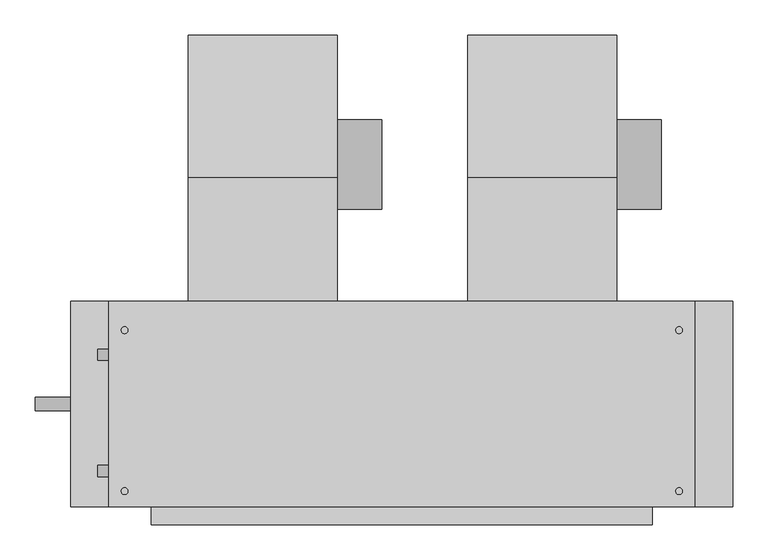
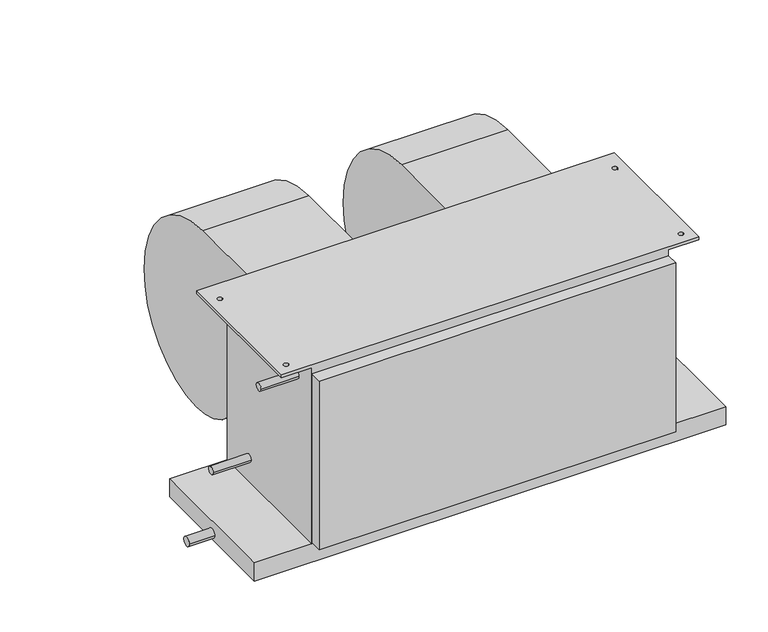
"""IFC4 building model written with IfcOpenShell, lengths in millimetres: proxy geometry, Concealed_High_Capacity_Horizontal_Fan_Coil_Unit_-_42DAA_-_CARRIER_-_2-Pipe_Cool-EHeat_LH_2022 : Size 12 - 277v/60Hz/1Ph - 6 Row 9.0kW."""

import ifcopenshell
import ifcopenshell.guid

model = None  # the IFC model being written
_history = None  # IfcOwnerHistory: only IFC2X3 demands one
_inside = {}  # id of a spatial element -> (the spatial element, [elements in it])
_under = {}  # id of a project, library or spatial element -> (it, [spatial elements below it])
_declared = {}  # id of a project -> (the project, [libraries it declares])
_typed = {}  # id of a type object -> (the type object, [elements of that type])
_made_of = {}  # id of a material, layer set ... -> (it, [elements and type objects made of it])


def new_model(schema):
    """Start an empty IFC model of exactly this schema.

    Asked for "IFC4X3", IfcOpenShell would pick the latest addendum, in which some entities
    have other attributes; the version numbers below select the first issue.
    IFC2X3 requires an IfcOwnerHistory on every rooted entity: one is made here for all.
    """
    global model, _history
    if schema == "IFC4X3":
        model = ifcopenshell.file(schema_version=(4, 3, 0, 0))
    else:
        model = ifcopenshell.file(schema=schema)
    _inside.clear()
    _under.clear()
    _declared.clear()
    _typed.clear()
    _made_of.clear()
    _history = None
    if model.schema == "IFC2X3":
        org = make("IfcOrganization", Name="unknown")
        user = make(
            "IfcPersonAndOrganization",
            ThePerson=make("IfcPerson", FamilyName="unknown"),
            TheOrganization=org,
        )
        app = make(
            "IfcApplication",
            ApplicationDeveloper=org,
            Version="unknown",
            ApplicationFullName="unknown",
            ApplicationIdentifier="unknown",
        )
        _history = make(
            "IfcOwnerHistory",
            OwningUser=user,
            OwningApplication=app,
            ChangeAction="ADDED",
            CreationDate=0,
        )
    return model


def make(cls, **values):
    """One entity of the class cls with the attributes given. An attribute that is None is left unset."""
    return model.create_entity(
        cls, **{name: value for name, value in values.items() if value is not None}
    )


def rooted(cls, **values):
    """An entity with a GlobalId (a new one), such as an element, a storey or a relation."""
    return make(cls, GlobalId=ifcopenshell.guid.new(), OwnerHistory=_history, **values)


def si_unit(unit_type, name, prefix=None):
    """IfcSIUnit, for example si_unit("LENGTHUNIT", "METRE", prefix="MILLI")."""
    return make("IfcSIUnit", UnitType=unit_type, Prefix=prefix, Name=name)


def assignment(units):
    """IfcUnitAssignment: the units of a project."""
    return None if units is None else make("IfcUnitAssignment", Units=units)


def point(xyz):
    """IfcCartesianPoint."""
    return None if xyz is None else make("IfcCartesianPoint", Coordinates=xyz)


def direction(xyz):
    """IfcDirection."""
    return None if xyz is None else make("IfcDirection", DirectionRatios=xyz)


def frame(location, z_axis=None, x_axis=None):
    """IfcAxis2Placement3D, a coordinate frame: its origin and axes. An axis left out is left unset."""
    return make(
        "IfcAxis2Placement3D",
        Location=point(location),
        Axis=direction(z_axis),
        RefDirection=direction(x_axis),
    )


def frame_2d(location, x_axis=None):
    """IfcAxis2Placement2D, a coordinate frame in the plane: its origin and x axis."""
    return make(
        "IfcAxis2Placement2D", Location=point(location), RefDirection=direction(x_axis)
    )


def origin():
    """The frame at (0, 0, 0) with its axes left unset."""
    return frame((0.0, 0.0, 0.0))


def place(relative_to, where):
    """IfcLocalPlacement: puts the frame where relative to a parent placement (None: the world)."""
    return make(
        "IfcLocalPlacement", PlacementRelTo=relative_to, RelativePlacement=where
    )


def context(
    kind, dimensions, precision=None, world=None, true_north=None, identifier=None
):
    """IfcGeometricRepresentationContext, for example the 3D "Model" context."""
    return make(
        "IfcGeometricRepresentationContext",
        ContextIdentifier=identifier,
        ContextType=kind,
        CoordinateSpaceDimension=dimensions,
        Precision=precision,
        WorldCoordinateSystem=world,
        TrueNorth=true_north,
    )


def project(units=None, contexts=None):
    """IfcProject with its units and contexts."""
    return rooted(
        "IfcProject",
        Name="project",
        RepresentationContexts=contexts,
        UnitsInContext=assignment(units),
    )


def spatial(cls, under=None, at=None, **own):
    """A site, building, storey or space (cls), placed at a placement, below another one or the project."""
    s = rooted(cls, ObjectPlacement=at, **own)
    if under is not None:
        _under.setdefault(under.id(), (under, []))[1].append(s)
    return s


def polyline(points):
    """IfcPolyline through the points."""
    return make("IfcPolyline", Points=[point(p) for p in points])


def circle_curve(where, radius):
    """IfcCircle in the frame where."""
    return make("IfcCircle", Position=where, Radius=radius)


def trimmed(basis, trim1, trim2, sense, master):
    """IfcTrimmedCurve: the piece of a basis curve between two trims."""
    return make(
        "IfcTrimmedCurve",
        BasisCurve=basis,
        Trim1=trim1,
        Trim2=trim2,
        SenseAgreement=sense,
        MasterRepresentation=master,
    )


def segment(curve, same_sense, transition):
    """IfcCompositeCurveSegment."""
    return make(
        "IfcCompositeCurveSegment",
        Transition=transition,
        SameSense=same_sense,
        ParentCurve=curve,
    )


def composite_curve(segments, self_intersect=None):
    """IfcCompositeCurve: segments joined end to end."""
    return make("IfcCompositeCurve", Segments=segments, SelfIntersect=self_intersect)


def outline(outer, holes=None, kind="AREA"):
    """IfcArbitraryClosedProfileDef: a profile drawn as a closed curve; with holes, ...WithVoids."""
    if holes is None:
        return make("IfcArbitraryClosedProfileDef", ProfileType=kind, OuterCurve=outer)
    return make(
        "IfcArbitraryProfileDefWithVoids",
        ProfileType=kind,
        OuterCurve=outer,
        InnerCurves=holes,
    )


def extrude(swept, where, along, depth):
    """IfcExtrudedAreaSolid: the profile swept, set in the frame where, extruded along a direction by depth."""
    return make(
        "IfcExtrudedAreaSolid",
        SweptArea=swept,
        Position=where,
        ExtrudedDirection=direction(along),
        Depth=depth,
    )


def shape(context_of_items, identifier, shape_type, items):
    """IfcShapeRepresentation: the items that make up one representation, for example the "Body"."""
    return make(
        "IfcShapeRepresentation",
        ContextOfItems=context_of_items,
        RepresentationIdentifier=identifier,
        RepresentationType=shape_type,
        Items=items,
    )


def source(mapping_origin, context_of_items, identifier, shape_type, items):
    """IfcRepresentationMap: a shape defined once, which mapped items show again and again."""
    return make(
        "IfcRepresentationMap",
        MappingOrigin=mapping_origin,
        MappedRepresentation=shape(context_of_items, identifier, shape_type, items),
    )


def transform(
    local_origin,
    x_axis=None,
    y_axis=None,
    z_axis=None,
    scale=None,
    scale2=None,
    scale3=None,
    uniform=True,
):
    """IfcCartesianTransformationOperator3D, or its non-uniform kind. x_axis, y_axis, z_axis: its Axis1, 2, 3."""
    if uniform:
        return make(
            "IfcCartesianTransformationOperator3D",
            Axis1=direction(x_axis),
            Axis2=direction(y_axis),
            LocalOrigin=point(local_origin),
            Scale=scale,
            Axis3=direction(z_axis),
        )
    return make(
        "IfcCartesianTransformationOperator3DnonUniform",
        Axis1=direction(x_axis),
        Axis2=direction(y_axis),
        LocalOrigin=point(local_origin),
        Scale=scale,
        Axis3=direction(z_axis),
        Scale2=scale2,
        Scale3=scale3,
    )


def mapped(mapping_source, mapping_target):
    """IfcMappedItem: shows the shape of a source again, moved by a transform."""
    return make(
        "IfcMappedItem", MappingSource=mapping_source, MappingTarget=mapping_target
    )


def made_of(thing, what):
    """Note that an element or type object is made of a material, layer set ...; save() writes the relation."""
    if what is not None:
        _made_of.setdefault(what.id(), (what, []))[1].append(thing)
    return thing


def element(
    cls,
    number,
    at=None,
    inside=None,
    cuts=None,
    type_object=None,
    material=None,
    context=None,
    identifier="Body",
    shape_type=None,
    held_by="IfcProductDefinitionShape",
    body=None,
    shapes=None,
    **own,
):
    """One element of the class cls, such as IfcWall. Its Tag is "e" and its number.

    at: its placement. inside: the storey or other place that contains it. cuts: it is an
    opening in that element (IfcRelVoidsElement). A single representation is given by context,
    identifier, shape_type and body (its items); several are given by shapes. held_by: the class
    of the entity that holds the representations. save() writes the other relations.
    """
    e = rooted(cls, Tag="e%d" % number, ObjectPlacement=at, **own)
    if body is not None:
        shapes = [shape(context, identifier, shape_type, body)]
    if shapes is not None:
        e.Representation = make(held_by, Representations=shapes)
    if inside is not None:
        _inside.setdefault(inside.id(), (inside, []))[1].append(e)
    if cuts is not None:
        rooted(
            "IfcRelVoidsElement", RelatingBuildingElement=cuts, RelatedOpeningElement=e
        )
    if type_object is not None:
        _typed.setdefault(type_object.id(), (type_object, []))[1].append(e)
    return made_of(e, material)


def aggregate(whole, parts):
    """IfcRelAggregates: a whole, such as a stair, and the parts it consists of."""
    return rooted("IfcRelAggregates", RelatingObject=whole, RelatedObjects=parts)


def save(model, path):
    """Write the relations noted so far, then the file.

    IfcRelAggregates (storeys below a building ...), IfcRelContainedInSpatialStructure (elements
    in a storey), IfcRelDefinesByType, IfcRelAssociatesMaterial and IfcRelDeclares: one each for
    every whole, place, type object, material and project.
    """
    for whole, parts in _under.values():
        aggregate(whole, parts)
    for where, things in _inside.values():
        rooted(
            "IfcRelContainedInSpatialStructure",
            RelatedElements=things,
            RelatingStructure=where,
        )
    for kind, things in _typed.values():
        rooted("IfcRelDefinesByType", RelatedObjects=things, RelatingType=kind)
    for what, things in _made_of.values():
        rooted("IfcRelAssociatesMaterial", RelatedObjects=things, RelatingMaterial=what)
    for by, libraries in _declared.values():
        rooted("IfcRelDeclares", RelatingContext=by, RelatedDefinitions=libraries)
    model.write(path)


def plane_surface(at):
    """IfcPlane: the flat surface through the origin of the frame at, square to its z axis."""
    return make("IfcPlane", Position=at)


def cylinder_surface(at, radius):
    """IfcCylindricalSurface: all points at the distance radius from the z axis of the frame at."""
    return make("IfcCylindricalSurface", Position=at, Radius=radius)


def revolved_surface(curve, axis_point, axis_direction):
    """IfcSurfaceOfRevolution: the curve turned about the line through axis_point along axis_direction."""
    return make(
        "IfcSurfaceOfRevolution",
        SweptCurve=make("IfcArbitraryOpenProfileDef", ProfileType="CURVE", Curve=curve),
        AxisPosition=make("IfcAxis1Placement", Location=point(axis_point), Axis=direction(axis_direction)),
    )


def advanced_brep(points, edges, surfaces, faces):
    """IfcAdvancedBrep: a solid bounded by faces that lie on surfaces and meet in shared edges.

    An edge is (start, end): straight between two places in points (the first is 0);
    or (start, end, curve); or (start, end, curve, False) where it runs against its curve.
    A face is (place in surfaces, loops), or (place, loops, False) where it looks against
    its surface's normal. A loop lists edges by number (the first is 1), with a minus sign
    where the edge is run from its end to its start. The first loop is the outer one.
    """
    corners = [point(p) for p in points]
    vertices = [make("IfcVertexPoint", VertexGeometry=c) for c in corners]
    made = []
    for start, end, *more in edges:
        made.append(
            make(
                "IfcEdgeCurve",
                EdgeStart=vertices[start],
                EdgeEnd=vertices[end],
                EdgeGeometry=more[0] if more else make("IfcPolyline", Points=[corners[start], corners[end]]),
                SameSense=more[1] if len(more) > 1 else True,
            )
        )
    hull = []
    for where, loops, *sense in faces:
        bounds = []
        for j, loop in enumerate(loops):
            ring = [make("IfcOrientedEdge", EdgeElement=made[abs(k) - 1], Orientation=k > 0) for k in loop]
            bounds.append(
                make(
                    "IfcFaceOuterBound" if j == 0 else "IfcFaceBound",
                    Bound=make("IfcEdgeLoop", EdgeList=ring),
                    Orientation=True,
                )
            )
        hull.append(make("IfcAdvancedFace", Bounds=bounds, FaceSurface=surfaces[where], SameSense=sense[0] if sense else True))
    return make("IfcAdvancedBrep", Outer=make("IfcClosedShell", CfsFaces=hull))


def mechanical_equipment_65178799(model_context):
    return source(origin(), model_context, "Body", "SolidModel", [
        extrude(outline(composite_curve([segment(trimmed(circle_curve(frame_2d((102.0007598, -206.8897468)), 63.5), [point((165.5007598, -206.8897468))], [point((38.5007598, -206.8897468))], False, "CARTESIAN"), True, "CONTINUOUS"), segment(trimmed(circle_curve(frame_2d((102.0007598, -206.8897468)), 63.5), [point((38.5007598, -206.8897468))], [point((165.5007598, -206.8897468))], False, "CARTESIAN"), True, "CONTINUOUS")], self_intersect=False)), frame((60.325, 0.0, 0.0), z_axis=(1.0, 0.0, 0.0), x_axis=(0.0, 1.0, 0.0)), (0.0, 0.0, 1.0), 63.5),
        advanced_brep(
        [(-150.749, 285.5155957, -222.029602), (-150.749, 104.6226, -403.64664), (-150.749, -50.9016, -277.10638), (-150.749, -92.075, -277.10638), (-150.749, -92.075, -19.05), (-150.749, 83.0080093, -19.05), (60.325, 285.5155957, -222.029602), (60.325, 83.0080093, -19.05), (60.325, -92.075, -19.05), (60.325, -92.075, -277.10638), (60.325, -50.9016, -277.10638), (60.325, 104.622599, -403.6457839)],
        [
            (0, 1, circle_curve(frame((-150.749, 104.44226, -222.57258), z_axis=(-1.0, 0.0, 0.0), x_axis=(0.0, -1.0, 0.0)), 181.0741498)),
            (1, 2, circle_curve(frame((-150.749, 104.44226, -245.02364), z_axis=(-1.0, 0.0, 0.0), x_axis=(0.0, -1.0, 0.0)), 158.6222464)),
            (2, 3),
            (3, 4),
            (4, 5),
            (5, 0, circle_curve(frame((-150.749, 81.9912, -222.57258), z_axis=(-1.0, 0.0, 0.0), x_axis=(0.0, -1.0, 0.0)), 203.52512)),
            (6, 7, circle_curve(frame((60.325, 81.9912, -222.57258), z_axis=(1.0, 0.0, 0.0), x_axis=(0.0, -1.0, 0.0)), 203.52512)),
            (7, 8),
            (8, 9),
            (9, 10),
            (10, 11, circle_curve(frame((60.325, 104.44226, -245.02364), z_axis=(1.0, 0.0, 0.0), x_axis=(0.0, -1.0, 0.0)), 158.6222464)),
            (11, 6, circle_curve(frame((60.325, 104.44226, -222.57258), z_axis=(1.0, 0.0, 0.0), x_axis=(0.0, -1.0, 0.0)), 181.0741498)),
            (0, 6),
            (11, 1),
            (10, 2),
            (9, 3),
            (8, 4),
            (7, 5),
        ],
        [
            plane_surface(frame((-150.749, -76.6318898, -222.57258), z_axis=(-1.0, 0.0, 0.0), x_axis=(0.0, 0.0, 1.0))),
            plane_surface(frame((60.325, -76.6318898, -222.57258), z_axis=(1.0, 0.0, 0.0), x_axis=(0.0, 0.0, -1.0))),
            cylinder_surface(frame((60.325, 104.44226, -222.57258), z_axis=(-1.0, 0.0, 0.0), x_axis=(0.0, -1.0, 0.0)), 181.0741498),
            cylinder_surface(frame((60.325, 104.44226, -245.02364), z_axis=(-1.0, 0.0, 0.0), x_axis=(0.0, -1.0, 0.0)), 158.6222464),
            plane_surface(frame((-150.749, -50.9016, -277.10638), z_axis=(0.0, 0.0, -1.0), x_axis=(1.0, 0.0, 0.0))),
            plane_surface(frame((-150.749, -92.075, -277.10638), z_axis=(0.0, -1.0, 0.0), x_axis=(1.0, 0.0, 0.0))),
            plane_surface(frame((-150.749, -92.075, -19.05), z_axis=(0.0, 0.0, 1.0), x_axis=(1.0, 0.0, 0.0))),
            cylinder_surface(frame((60.325, 81.9912, -222.57258), z_axis=(-1.0, 0.0, 0.0), x_axis=(0.0, -1.0, 0.0)), 203.52512),
        ],
        [
            (0, [[1, 2, 3, 4, 5, 6]]),
            (1, [[7, 8, 9, 10, 11, 12]]),
            (2, [[-1, 13, -12, 14]]),
            (3, [[-2, -14, -11, 15]]),
            (4, [[-3, -15, -10, 16]]),
            (5, [[-4, -16, -9, 17]]),
            (6, [[-5, -17, -8, 18]]),
            (7, [[-6, -18, -7, -13]]),
        ],
    ),
        extrude(outline(composite_curve([segment(trimmed(circle_curve(frame_2d((102.0007598, -206.8897468)), 63.5), [point((165.5007598, -206.8897468))], [point((38.5007598, -206.8897468))], False, "CARTESIAN"), True, "CONTINUOUS"), segment(trimmed(circle_curve(frame_2d((102.0007598, -206.8897468)), 63.5), [point((38.5007598, -206.8897468))], [point((165.5007598, -206.8897468))], False, "CARTESIAN"), True, "CONTINUOUS")], self_intersect=False)), frame((457.2, 0.0, 0.0), z_axis=(1.0, 0.0, 0.0), x_axis=(0.0, 1.0, 0.0)), (0.0, 0.0, 1.0), 63.5),
        advanced_brep(
        [(246.126, 285.5155957, -222.029602), (246.126, 104.6226, -403.64664), (246.126, -50.9016, -277.10638), (246.126, -92.075, -277.10638), (246.126, -92.075, -19.05), (246.126, 83.0080093, -19.05), (457.2, 285.5155957, -222.029602), (457.2, 83.0080093, -19.05), (457.2, -92.075, -19.05), (457.2, -92.075, -277.10638), (457.2, -50.9016, -277.10638), (457.2, 104.622599, -403.6457839)],
        [
            (0, 1, circle_curve(frame((246.126, 104.44226, -222.57258), z_axis=(-1.0, 0.0, 0.0), x_axis=(0.0, -1.0, 0.0)), 181.0741498)),
            (1, 2, circle_curve(frame((246.126, 104.44226, -245.02364), z_axis=(-1.0, 0.0, 0.0), x_axis=(0.0, -1.0, 0.0)), 158.6222464)),
            (2, 3),
            (3, 4),
            (4, 5),
            (5, 0, circle_curve(frame((246.126, 81.9912, -222.57258), z_axis=(-1.0, 0.0, 0.0), x_axis=(0.0, -1.0, 0.0)), 203.52512)),
            (6, 7, circle_curve(frame((457.2, 81.9912, -222.57258), z_axis=(1.0, 0.0, 0.0), x_axis=(0.0, -1.0, 0.0)), 203.52512)),
            (7, 8),
            (8, 9),
            (9, 10),
            (10, 11, circle_curve(frame((457.2, 104.44226, -245.02364), z_axis=(1.0, 0.0, 0.0), x_axis=(0.0, -1.0, 0.0)), 158.6222464)),
            (11, 6, circle_curve(frame((457.2, 104.44226, -222.57258), z_axis=(1.0, 0.0, 0.0), x_axis=(0.0, -1.0, 0.0)), 181.0741498)),
            (0, 6),
            (11, 1),
            (10, 2),
            (9, 3),
            (8, 4),
            (7, 5),
        ],
        [
            plane_surface(frame((246.126, -76.6318898, -222.57258), z_axis=(-1.0, 0.0, 0.0), x_axis=(0.0, 0.0, 1.0))),
            plane_surface(frame((457.2, -76.6318898, -222.57258), z_axis=(1.0, 0.0, 0.0), x_axis=(0.0, 0.0, -1.0))),
            cylinder_surface(frame((457.2, 104.44226, -222.57258), z_axis=(-1.0, 0.0, 0.0), x_axis=(0.0, -1.0, 0.0)), 181.0741498),
            cylinder_surface(frame((457.2, 104.44226, -245.02364), z_axis=(-1.0, 0.0, 0.0), x_axis=(0.0, -1.0, 0.0)), 158.6222464),
            plane_surface(frame((246.126, -50.9016, -277.10638), z_axis=(0.0, 0.0, -1.0), x_axis=(1.0, 0.0, 0.0))),
            plane_surface(frame((246.126, -92.075, -277.10638), z_axis=(0.0, -1.0, 0.0), x_axis=(1.0, 0.0, 0.0))),
            plane_surface(frame((246.126, -92.075, -19.05), z_axis=(0.0, 0.0, 1.0), x_axis=(1.0, 0.0, 0.0))),
            cylinder_surface(frame((457.2, 81.9912, -222.57258), z_axis=(-1.0, 0.0, 0.0), x_axis=(0.0, -1.0, 0.0)), 203.52512),
        ],
        [
            (0, [[1, 2, 3, 4, 5, 6]]),
            (1, [[7, 8, 9, 10, 11, 12]]),
            (2, [[-1, 13, -12, 14]]),
            (3, [[-2, -14, -11, 15]]),
            (4, [[-3, -15, -10, 16]]),
            (5, [[-4, -16, -9, 17]]),
            (6, [[-5, -17, -8, 18]]),
            (7, [[-6, -18, -7, -13]]),
        ],
    ),
        advanced_brep(
        [(568.325, -92.075, -6.35), (568.325, -384.175, -6.35), (508.0, -384.175, -6.35), (508.0, -92.075, -6.35), (541.3375, -133.35, -6.35), (550.8625, -133.35, -6.35), (541.3375, -361.95, -6.35), (550.8625, -361.95, -6.35), (-263.525, -92.075, -6.35), (-203.2, -92.075, -6.35), (-203.2, -384.175, -6.35), (-263.525, -384.175, -6.35), (-246.0625, -133.35, -6.35), (-236.5375, -133.35, -6.35), (-246.0625, -361.95, -6.35), (-236.5375, -361.95, -6.35), (568.325, -384.175, 0.0), (568.325, -92.075, 0.0), (-263.525, -92.075, 0.0), (-263.525, -384.175, 0.0), (-236.5375, -133.35, 0.0), (-246.0625, -133.35, 0.0), (-236.5375, -361.95, 0.0), (-246.0625, -361.95, 0.0), (550.8625, -133.35, 0.0), (541.3375, -133.35, 0.0), (550.8625, -361.95, 0.0), (541.3375, -361.95, 0.0), (508.0, -92.075, -377.825), (-203.2, -92.075, -377.825), (-203.2, -384.175, -377.825), (508.0, -384.175, -377.825)],
        [
            (0, 1),
            (1, 2),
            (2, 3),
            (3, 0),
            (4, 5, circle_curve(frame((546.1, -133.35, -6.35), z_axis=(0.0, 0.0, 1.0), x_axis=(1.0, 0.0, 0.0)), 4.7625)),
            (5, 4, circle_curve(frame((546.1, -133.35, -6.35), z_axis=(0.0, 0.0, 1.0), x_axis=(1.0, 0.0, 0.0)), 4.7625)),
            (6, 7, circle_curve(frame((546.1, -361.95, -6.35), z_axis=(0.0, 0.0, 1.0), x_axis=(1.0, 0.0, 0.0)), 4.7625)),
            (7, 6, circle_curve(frame((546.1, -361.95, -6.35), z_axis=(0.0, 0.0, 1.0), x_axis=(1.0, 0.0, 0.0)), 4.7625)),
            (8, 9),
            (9, 10),
            (10, 11),
            (11, 8),
            (12, 13, circle_curve(frame((-241.3, -133.35, -6.35), z_axis=(0.0, 0.0, 1.0), x_axis=(1.0, 0.0, 0.0)), 4.7625)),
            (13, 12, circle_curve(frame((-241.3, -133.35, -6.35), z_axis=(0.0, 0.0, 1.0), x_axis=(1.0, 0.0, 0.0)), 4.7625)),
            (14, 15, circle_curve(frame((-241.3, -361.95, -6.35), z_axis=(0.0, 0.0, 1.0), x_axis=(1.0, 0.0, 0.0)), 4.7625)),
            (15, 14, circle_curve(frame((-241.3, -361.95, -6.35), z_axis=(0.0, 0.0, 1.0), x_axis=(1.0, 0.0, 0.0)), 4.7625)),
            (16, 17),
            (17, 18),
            (18, 19),
            (19, 16),
            (20, 21, circle_curve(frame((-241.3, -133.35, 0.0), z_axis=(0.0, 0.0, -1.0), x_axis=(1.0, 0.0, 0.0)), 4.7625)),
            (21, 20, circle_curve(frame((-241.3, -133.35, 0.0), z_axis=(0.0, 0.0, -1.0), x_axis=(1.0, 0.0, 0.0)), 4.7625)),
            (22, 23, circle_curve(frame((-241.3, -361.95, 0.0), z_axis=(0.0, 0.0, -1.0), x_axis=(1.0, 0.0, 0.0)), 4.7625)),
            (23, 22, circle_curve(frame((-241.3, -361.95, 0.0), z_axis=(0.0, 0.0, -1.0), x_axis=(1.0, 0.0, 0.0)), 4.7625)),
            (24, 25, circle_curve(frame((546.1, -133.35, 0.0), z_axis=(0.0, 0.0, -1.0), x_axis=(1.0, 0.0, 0.0)), 4.7625)),
            (25, 24, circle_curve(frame((546.1, -133.35, 0.0), z_axis=(0.0, 0.0, -1.0), x_axis=(1.0, 0.0, 0.0)), 4.7625)),
            (26, 27, circle_curve(frame((546.1, -361.95, 0.0), z_axis=(0.0, 0.0, -1.0), x_axis=(1.0, 0.0, 0.0)), 4.7625)),
            (27, 26, circle_curve(frame((546.1, -361.95, 0.0), z_axis=(0.0, 0.0, -1.0), x_axis=(1.0, 0.0, 0.0)), 4.7625)),
            (3, 28),
            (28, 29),
            (29, 9),
            (8, 18),
            (17, 0),
            (1, 16),
            (19, 11),
            (10, 30),
            (30, 31),
            (31, 2),
            (28, 31),
            (30, 29),
            (20, 13),
            (12, 21),
            (22, 15),
            (14, 23),
            (24, 5),
            (4, 25),
            (26, 7),
            (6, 27),
        ],
        [
            plane_surface(frame((508.0, -92.075, -6.35), z_axis=(0.0, 0.0, -1.0), x_axis=(1.0, 0.0, 0.0))),
            plane_surface(frame((508.0, -92.075, 0.0), z_axis=(0.0, 0.0, 1.0), x_axis=(-1.0, 0.0, 0.0))),
            plane_surface(frame((568.325, -92.075, 0.0), z_axis=(0.0, 1.0, 0.0), x_axis=(0.0, 0.0, -1.0))),
            plane_surface(frame((508.0, -384.175, 0.0), z_axis=(0.0, -1.0, 0.0), x_axis=(0.0, 0.0, -1.0))),
            plane_surface(frame((568.325, -384.175, 0.0), z_axis=(1.0, 0.0, 0.0), x_axis=(0.0, 0.0, -1.0))),
            plane_surface(frame((-263.525, -92.075, 0.0), z_axis=(-1.0, 0.0, 0.0), x_axis=(0.0, 0.0, -1.0))),
            plane_surface(frame((-203.2, -92.075, -377.825), z_axis=(0.0, 0.0, -1.0), x_axis=(1.0, 0.0, 0.0))),
            plane_surface(frame((-203.2, -92.075, 0.0), z_axis=(-1.0, 0.0, 0.0), x_axis=(0.0, 0.0, -1.0))),
            plane_surface(frame((508.0, -384.175, 0.0), z_axis=(1.0, 0.0, 0.0), x_axis=(0.0, 0.0, -1.0))),
            revolved_surface(polyline([(-236.53750000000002, -133.35, 0.0), (-236.53750000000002, -133.35, -6.35)]), (-241.3, -133.35, -6.35), (0.0, 0.0, 1.0)),
            revolved_surface(polyline([(-236.53750000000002, -361.95, 0.0), (-236.53750000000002, -361.95, -6.35)]), (-241.3, -361.95, 0.0), (0.0, 0.0, 1.0)),
            revolved_surface(polyline([(550.8625000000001, -133.35, 0.0), (550.8625000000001, -133.35, -6.35)]), (546.1, -133.35, 0.0), (0.0, 0.0, 1.0)),
            revolved_surface(polyline([(550.8625000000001, -361.95, 0.0), (550.8625000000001, -361.95, -6.35)]), (546.1, -361.95, 0.0), (0.0, 0.0, 1.0)),
        ],
        [
            (0, [[1, 2, 3, 4], [5, 6], [7, 8]]),
            (0, [[9, 10, 11, 12], [13, 14], [15, 16]]),
            (1, [[17, 18, 19, 20], [21, 22], [23, 24], [25, 26], [27, 28]]),
            (2, [[-4, 29, 30, 31, -9, 32, -18, 33]]),
            (3, [[-2, 34, -20, 35, -11, 36, 37, 38]]),
            (4, [[-1, -33, -17, -34]]),
            (5, [[-12, -35, -19, -32]]),
            (6, [[39, -37, 40, -30]]),
            (7, [[-40, -36, -10, -31]]),
            (8, [[-39, -29, -3, -38]]),
            (9, [[41, -13, 42, -21]]),
            (9, [[-41, -22, -42, -14]]),
            (10, [[43, -15, 44, -23]]),
            (10, [[-43, -24, -44, -16]]),
            (11, [[45, -5, 46, -25]]),
            (11, [[-45, -26, -46, -6]]),
            (12, [[47, -7, 48, -27]]),
            (12, [[-47, -28, -48, -8]]),
        ],
    ),
        extrude(outline(composite_curve([segment(trimmed(circle_curve(frame_2d((-238.125, -403.225)), 9.525), [point((-247.65, -403.225))], [point((-228.6, -403.225))], False, "CARTESIAN"), True, "CONTINUOUS"), segment(trimmed(circle_curve(frame_2d((-238.125, -403.225)), 9.525), [point((-228.6, -403.225))], [point((-247.65, -403.225))], False, "CARTESIAN"), True, "CONTINUOUS")], self_intersect=False)), frame((-368.3, 0.0, 0.0), z_axis=(1.0, 0.0, 0.0), x_axis=(0.0, 1.0, 0.0)), (0.0, 0.0, 1.0), 50.8),
        extrude(outline(composite_curve([segment(trimmed(circle_curve(frame_2d((-333.375, -50.8)), 7.9375), [point((-341.3125, -50.8))], [point((-325.4375, -50.8))], False, "CARTESIAN"), True, "CONTINUOUS"), segment(trimmed(circle_curve(frame_2d((-333.375, -50.8)), 7.9375), [point((-325.4375, -50.8))], [point((-341.3125, -50.8))], False, "CARTESIAN"), True, "CONTINUOUS")], self_intersect=False)), frame((-279.4, 0.0, 0.0), z_axis=(1.0, 0.0, 0.0), x_axis=(0.0, 1.0, 0.0)), (0.0, 0.0, 1.0), 76.2),
        extrude(outline(composite_curve([segment(trimmed(circle_curve(frame_2d((-168.275, -327.025)), 7.9375), [point((-176.2125, -327.025))], [point((-160.3375, -327.025))], False, "CARTESIAN"), True, "CONTINUOUS"), segment(trimmed(circle_curve(frame_2d((-168.275, -327.025)), 7.9375), [point((-160.3375, -327.025))], [point((-176.2125, -327.025))], False, "CARTESIAN"), True, "CONTINUOUS")], self_intersect=False)), frame((-279.4, 0.0, 0.0), z_axis=(1.0, 0.0, 0.0), x_axis=(0.0, 1.0, 0.0)), (0.0, 0.0, 1.0), 76.2),
        extrude(outline(polyline([(508.0, -409.575), (-203.2, -409.575), (-203.2, -384.175), (508.0, -384.175), (508.0, -409.575)])), frame((0.0, 0.0, -374.65), z_axis=(0.0, 0.0, 1.0), x_axis=(1.0, 0.0, 0.0)), (0.0, 0.0, 1.0), 355.6),
        extrude(outline(polyline([(622.3, -92.075), (622.3, -384.175), (-317.5, -384.175), (-317.5, -92.075), (622.3, -92.075)])), frame((0.0, 0.0, -415.925), z_axis=(0.0, 0.0, 1.0), x_axis=(1.0, 0.0, 0.0)), (0.0, 0.0, 1.0), 38.1),
    ])


if __name__ == "__main__":
    model = new_model("IFC4")
    model_context = context("Model", 3, world=origin())
    ifc_project = project(units=[si_unit("LENGTHUNIT", "METRE", prefix="MILLI")], contexts=[model_context])
    site = spatial("IfcSite", under=ifc_project)
    building = spatial("IfcBuilding", under=site)
    placement = place(None, origin())
    mechanical_equipment_shape = mechanical_equipment_65178799(model_context)
    element("IfcBuildingElementProxy", 1, Name="Concealed_High_Capacity_Horizontal_Fan_Coil_Unit_-_42DAA_-_CARRIER_-_2-Pipe_Cool-EHeat_LH_2022 : Size 12 - 277v/60Hz/1Ph - 6 Row 9.0kW", ObjectType="Concealed_High_Capacity_Horizontal_Fan_Coil_Unit_-_42DAA_-_CARRIER_-_2-Pipe_Cool-EHeat_LH_2022 : Size 12 - 277v/60Hz/1Ph - 6 Row 9.0kW", at=placement, inside=building, context=model_context, shape_type="MappedRepresentation", body=[
        mapped(mechanical_equipment_shape, transform((0.0, 0.0, 0.0), x_axis=(1.0, 0.0, 0.0), y_axis=(0.0, 1.0, 0.0), z_axis=(0.0, 0.0, 1.0))),
    ])
    save(model, "model.ifc")
